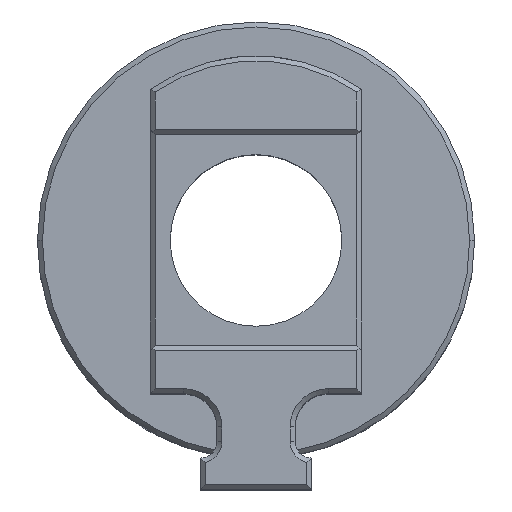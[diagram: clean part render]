
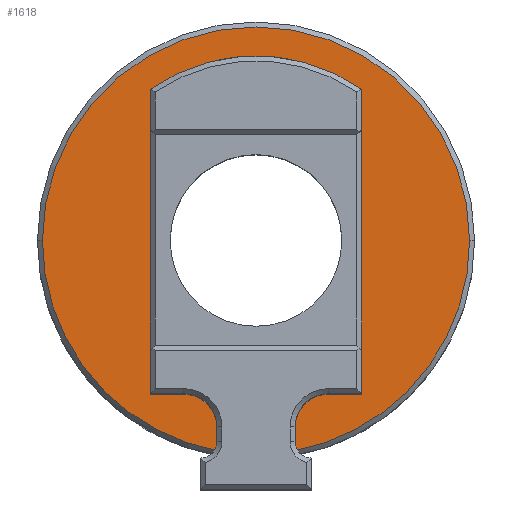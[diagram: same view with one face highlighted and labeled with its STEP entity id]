
A CAD part, top view. The second image highlights one B-rep face of the part: STEP entity #1618.
In plain terms, the highlighted planar face has unit normal (0, 0, 1).
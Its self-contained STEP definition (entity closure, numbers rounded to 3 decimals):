
#16 = CARTESIAN_POINT ( 'NONE',  ( -2.05, -11.239, 7. ) ) ;
#25 = VECTOR ( 'NONE', #2043, 1000. ) ;
#45 = VERTEX_POINT ( 'NONE', #964 ) ;
#77 = DIRECTION ( 'NONE',  ( 0., 0., 1. ) ) ;
#80 = DIRECTION ( 'NONE',  ( 0., 0., 1. ) ) ;
#86 = DIRECTION ( 'NONE',  ( 0., 0., 1. ) ) ;
#108 = AXIS2_PLACEMENT_3D ( 'NONE', #1719, #1421, #771 ) ;
#112 = ORIENTED_EDGE ( 'NONE', *, *, #1604, .T. ) ;
#182 = EDGE_LOOP ( 'NONE', ( #1704, #2066, #1323, #835, #342, #112, #437, #1398, #704, #1537, #1315, #659, #420, #1040 ) ) ;
#205 = DIRECTION ( 'NONE',  ( 0., 0., -1. ) ) ;
#206 = CARTESIAN_POINT ( 'NONE',  ( 6.35, -8.939, 7. ) ) ;
#222 = VERTEX_POINT ( 'NONE', #1083 ) ;
#327 = CARTESIAN_POINT ( 'NONE',  ( 0., -8.939, 7. ) ) ;
#342 = ORIENTED_EDGE ( 'NONE', *, *, #576, .F. ) ;
#346 = CARTESIAN_POINT ( 'NONE',  ( 4.35, -11.239, 7. ) ) ;
#356 = DIRECTION ( 'NONE',  ( 1., 0., 0. ) ) ;
#370 = CARTESIAN_POINT ( 'NONE',  ( -4.35, -8.939, 7. ) ) ;
#382 = FACE_OUTER_BOUND ( 'NONE', #182, .T. ) ;
#384 = EDGE_CURVE ( 'NONE', #1379, #1884, #1460, .T. ) ;
#392 = VERTEX_POINT ( 'NONE', #1095 ) ;
#395 = CARTESIAN_POINT ( 'NONE',  ( -12.844, 0., 7. ) ) ;
#415 = EDGE_CURVE ( 'NONE', #1607, #392, #1612, .T. ) ;
#420 = ORIENTED_EDGE ( 'NONE', *, *, #1849, .T. ) ;
#432 = CARTESIAN_POINT ( 'NONE',  ( -6.35, -8.939, 7. ) ) ;
#436 = EDGE_CURVE ( 'NONE', #1182, #1379, #690, .T. ) ;
#437 = ORIENTED_EDGE ( 'NONE', *, *, #1006, .T. ) ;
#482 = CARTESIAN_POINT ( 'NONE',  ( 0., 0., 7. ) ) ;
#486 = AXIS2_PLACEMENT_3D ( 'NONE', #661, #1636, #1288 ) ;
#491 = LINE ( 'NONE', #327, #1409 ) ;
#560 = CARTESIAN_POINT ( 'NONE',  ( 0., 0., 7. ) ) ;
#576 = EDGE_CURVE ( 'NONE', #1668, #2050, #610, .T. ) ;
#601 = DIRECTION ( 'NONE',  ( 0., 1., 0. ) ) ;
#610 = CIRCLE ( 'NONE', #1788, 1.3 ) ;
#640 = DIRECTION ( 'NONE',  ( 0., 0., 1. ) ) ;
#659 = ORIENTED_EDGE ( 'NONE', *, *, #1390, .T. ) ;
#661 = CARTESIAN_POINT ( 'NONE',  ( -4.35, -11.239, 7. ) ) ;
#676 = VERTEX_POINT ( 'NONE', #1870 ) ;
#690 = CIRCLE ( 'NONE', #1925, 1.3 ) ;
#704 = ORIENTED_EDGE ( 'NONE', *, *, #1127, .T. ) ;
#747 = EDGE_CURVE ( 'NONE', #676, #1182, #1045, .T. ) ;
#756 = EDGE_CURVE ( 'NONE', #222, #980, #981, .T. ) ;
#759 = CARTESIAN_POINT ( 'NONE',  ( 0., 0., 7. ) ) ;
#771 = DIRECTION ( 'NONE',  ( -1., 0., 0. ) ) ;
#785 = DIRECTION ( 'NONE',  ( -1., 0., 0. ) ) ;
#811 = VERTEX_POINT ( 'NONE', #2086 ) ;
#835 = ORIENTED_EDGE ( 'NONE', *, *, #1670, .T. ) ;
#893 = CARTESIAN_POINT ( 'NONE',  ( 2.05, 0., 7. ) ) ;
#908 = CIRCLE ( 'NONE', #486, 2.3 ) ;
#921 = DIRECTION ( 'NONE',  ( 0., 0., 1. ) ) ;
#957 = CARTESIAN_POINT ( 'NONE',  ( 6.35, 0., 7. ) ) ;
#961 = CARTESIAN_POINT ( 'NONE',  ( 6.35, 8.701, 7. ) ) ;
#964 = CARTESIAN_POINT ( 'NONE',  ( -2.05, -11.239, 7. ) ) ;
#980 = VERTEX_POINT ( 'NONE', #961 ) ;
#981 = CIRCLE ( 'NONE', #1861, 10.772 ) ;
#1006 = EDGE_CURVE ( 'NONE', #45, #1607, #908, .T. ) ;
#1035 = CARTESIAN_POINT ( 'NONE',  ( -2.172, -12.66, 7. ) ) ;
#1040 = ORIENTED_EDGE ( 'NONE', *, *, #747, .T. ) ;
#1045 = LINE ( 'NONE', #893, #1930 ) ;
#1054 = PLANE ( 'NONE',  #108 ) ;
#1083 = CARTESIAN_POINT ( 'NONE',  ( -6.35, 8.701, 7. ) ) ;
#1087 = DIRECTION ( 'NONE',  ( -1., 0., 0. ) ) ;
#1095 = CARTESIAN_POINT ( 'NONE',  ( -6.35, -8.939, 7. ) ) ;
#1127 = EDGE_CURVE ( 'NONE', #392, #222, #1967, .T. ) ;
#1134 = EDGE_CURVE ( 'NONE', #1884, #2171, #2109, .T. ) ;
#1156 = VECTOR ( 'NONE', #601, 1000. ) ;
#1182 = VERTEX_POINT ( 'NONE', #1927 ) ;
#1217 = AXIS2_PLACEMENT_3D ( 'NONE', #346, #77, #356 ) ;
#1281 = VERTEX_POINT ( 'NONE', #206 ) ;
#1282 = CIRCLE ( 'NONE', #1217, 2.3 ) ;
#1286 = VECTOR ( 'NONE', #2114, 1000. ) ;
#1288 = DIRECTION ( 'NONE',  ( 1., 0., 0. ) ) ;
#1290 = DIRECTION ( 'NONE',  ( 1., 0., 0. ) ) ;
#1315 = ORIENTED_EDGE ( 'NONE', *, *, #1725, .F. ) ;
#1323 = ORIENTED_EDGE ( 'NONE', *, *, #1134, .T. ) ;
#1357 = CIRCLE ( 'NONE', #2132, 12.844 ) ;
#1379 = VERTEX_POINT ( 'NONE', #1427 ) ;
#1390 = EDGE_CURVE ( 'NONE', #1281, #811, #491, .T. ) ;
#1398 = ORIENTED_EDGE ( 'NONE', *, *, #415, .T. ) ;
#1401 = DIRECTION ( 'NONE',  ( -1., 0., 0. ) ) ;
#1409 = VECTOR ( 'NONE', #1401, 1000. ) ;
#1421 = DIRECTION ( 'NONE',  ( 0., 0., -1. ) ) ;
#1422 = CARTESIAN_POINT ( 'NONE',  ( -6.35, 0., 7. ) ) ;
#1427 = CARTESIAN_POINT ( 'NONE',  ( 2.172, -12.66, 7. ) ) ;
#1429 = CARTESIAN_POINT ( 'NONE',  ( 0., 0., 7. ) ) ;
#1448 = CARTESIAN_POINT ( 'NONE',  ( 3.35, -12.111, 7. ) ) ;
#1460 = CIRCLE ( 'NONE', #2030, 12.844 ) ;
#1469 = LINE ( 'NONE', #957, #1706 ) ;
#1514 = DIRECTION ( 'NONE',  ( 0., 0., -1. ) ) ;
#1537 = ORIENTED_EDGE ( 'NONE', *, *, #756, .T. ) ;
#1604 = EDGE_CURVE ( 'NONE', #1668, #45, #2052, .T. ) ;
#1607 = VERTEX_POINT ( 'NONE', #370 ) ;
#1612 = LINE ( 'NONE', #432, #1286 ) ;
#1618 = ADVANCED_FACE ( 'NONE', ( #382 ), #1054, .F. ) ;
#1622 = DIRECTION ( 'NONE',  ( 0., 1., 0. ) ) ;
#1636 = DIRECTION ( 'NONE',  ( 0., 0., 1. ) ) ;
#1666 = CARTESIAN_POINT ( 'NONE',  ( -3.35, -12.111, 7. ) ) ;
#1668 = VERTEX_POINT ( 'NONE', #1801 ) ;
#1670 = EDGE_CURVE ( 'NONE', #2171, #2050, #1357, .T. ) ;
#1692 = DIRECTION ( 'NONE',  ( 1., 0., 0. ) ) ;
#1704 = ORIENTED_EDGE ( 'NONE', *, *, #436, .T. ) ;
#1706 = VECTOR ( 'NONE', #1622, 1000. ) ;
#1719 = CARTESIAN_POINT ( 'NONE',  ( 0., 0., 7. ) ) ;
#1725 = EDGE_CURVE ( 'NONE', #1281, #980, #1469, .T. ) ;
#1733 = CARTESIAN_POINT ( 'NONE',  ( 12.844, 0., 7. ) ) ;
#1788 = AXIS2_PLACEMENT_3D ( 'NONE', #1666, #1514, #2189 ) ;
#1801 = CARTESIAN_POINT ( 'NONE',  ( -2.05, -12.111, 7. ) ) ;
#1849 = EDGE_CURVE ( 'NONE', #811, #676, #1282, .T. ) ;
#1861 = AXIS2_PLACEMENT_3D ( 'NONE', #560, #205, #1692 ) ;
#1870 = CARTESIAN_POINT ( 'NONE',  ( 2.05, -11.239, 7. ) ) ;
#1884 = VERTEX_POINT ( 'NONE', #1733 ) ;
#1895 = AXIS2_PLACEMENT_3D ( 'NONE', #759, #86, #1087 ) ;
#1925 = AXIS2_PLACEMENT_3D ( 'NONE', #1448, #80, #1290 ) ;
#1927 = CARTESIAN_POINT ( 'NONE',  ( 2.05, -12.111, 7. ) ) ;
#1930 = VECTOR ( 'NONE', #2074, 1000. ) ;
#1967 = LINE ( 'NONE', #1422, #1156 ) ;
#2030 = AXIS2_PLACEMENT_3D ( 'NONE', #1429, #921, #2122 ) ;
#2043 = DIRECTION ( 'NONE',  ( 0., 1., 0. ) ) ;
#2050 = VERTEX_POINT ( 'NONE', #1035 ) ;
#2052 = LINE ( 'NONE', #16, #25 ) ;
#2066 = ORIENTED_EDGE ( 'NONE', *, *, #384, .T. ) ;
#2074 = DIRECTION ( 'NONE',  ( 0., -1., 0. ) ) ;
#2086 = CARTESIAN_POINT ( 'NONE',  ( 4.35, -8.939, 7. ) ) ;
#2109 = CIRCLE ( 'NONE', #1895, 12.844 ) ;
#2114 = DIRECTION ( 'NONE',  ( -1., 0., 0. ) ) ;
#2122 = DIRECTION ( 'NONE',  ( -1., 0., 0. ) ) ;
#2132 = AXIS2_PLACEMENT_3D ( 'NONE', #482, #640, #785 ) ;
#2171 = VERTEX_POINT ( 'NONE', #395 ) ;
#2189 = DIRECTION ( 'NONE',  ( -1., 0., 0. ) ) ;
